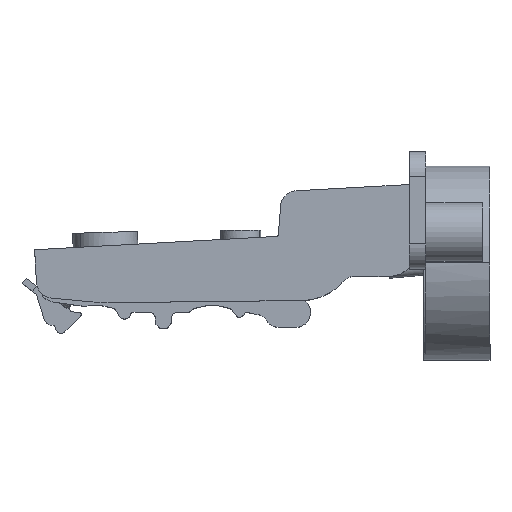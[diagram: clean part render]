
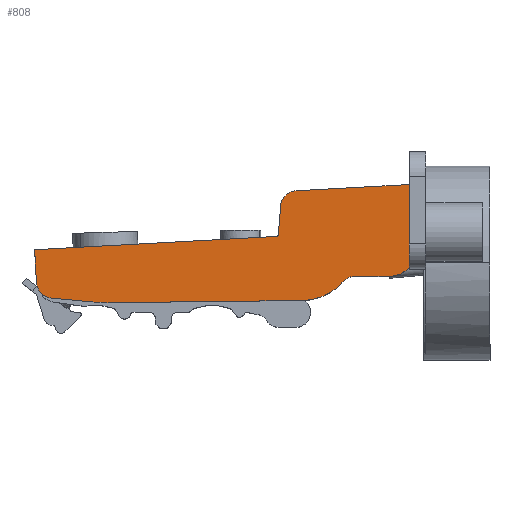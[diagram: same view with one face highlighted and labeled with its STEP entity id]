
A CAD part, top view. The second image highlights one B-rep face of the part: STEP entity #808.
In plain terms, the highlighted planar face has unit normal (0, 0, 1).
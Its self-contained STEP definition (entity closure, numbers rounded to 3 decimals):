
#79 = ORIENTED_EDGE ( 'NONE', *, *, #407, .T. ) ;
#109 = VERTEX_POINT ( 'NONE', #5250 ) ;
#197 = LINE ( 'NONE', #697, #4648 ) ;
#266 = AXIS2_PLACEMENT_3D ( 'NONE', #2943, #4321, #4776 ) ;
#311 = CARTESIAN_POINT ( 'NONE',  ( -4.882, 0.375, 8.5 ) ) ;
#407 = EDGE_CURVE ( 'NONE', #642, #2784, #5434, .T. ) ;
#416 = LINE ( 'NONE', #3244, #2180 ) ;
#435 = VECTOR ( 'NONE', #876, 1000. ) ;
#496 = CARTESIAN_POINT ( 'NONE',  ( -14.834, 14.798, 8.5 ) ) ;
#514 = CARTESIAN_POINT ( 'NONE',  ( -58.918, -1.461, 8.5 ) ) ;
#605 = CARTESIAN_POINT ( 'NONE',  ( -4.905, 2.375, 8.5 ) ) ;
#631 = VECTOR ( 'NONE', #1124, 1000. ) ;
#642 = VERTEX_POINT ( 'NONE', #3861 ) ;
#697 = CARTESIAN_POINT ( 'NONE',  ( -0.519, 18.589, 8.5 ) ) ;
#783 = CARTESIAN_POINT ( 'NONE',  ( -4.905, 2.375, 8.5 ) ) ;
#786 = CARTESIAN_POINT ( 'NONE',  ( -58.918, -1.461, 8.5 ) ) ;
#793 = LINE ( 'NONE', #5702, #631 ) ;
#808 = ADVANCED_FACE ( 'NONE', ( #3287 ), #5550, .T. ) ;
#845 = DIRECTION ( 'NONE',  ( 1., 0., 0. ) ) ;
#865 = CARTESIAN_POINT ( 'NONE',  ( -22.489, 9.378, 8.5 ) ) ;
#876 = DIRECTION ( 'NONE',  ( 1., 0.011, 0. ) ) ;
#910 = ORIENTED_EDGE ( 'NONE', *, *, #1434, .T. ) ;
#914 = DIRECTION ( 'NONE',  ( 1., 0., 0. ) ) ;
#990 = VERTEX_POINT ( 'NONE', #605 ) ;
#1060 = ORIENTED_EDGE ( 'NONE', *, *, #1093, .T. ) ;
#1093 = EDGE_CURVE ( 'NONE', #3996, #990, #1215, .T. ) ;
#1103 = AXIS2_PLACEMENT_3D ( 'NONE', #4534, #3098, #845 ) ;
#1123 = CIRCLE ( 'NONE', #266, 0.5 ) ;
#1124 = DIRECTION ( 'NONE',  ( 0.055, -0.998, 0. ) ) ;
#1164 = CARTESIAN_POINT ( 'NONE',  ( -18.204, 10.049, 8.5 ) ) ;
#1215 = CIRCLE ( 'NONE', #2557, 2. ) ;
#1241 = CARTESIAN_POINT ( 'NONE',  ( -14.067, 8.098, 8.5 ) ) ;
#1285 = CARTESIAN_POINT ( 'NONE',  ( -14.998, 17.794, 8.5 ) ) ;
#1321 = CARTESIAN_POINT ( 'NONE',  ( 1.847, 2.451, 8.5 ) ) ;
#1395 = ORIENTED_EDGE ( 'NONE', *, *, #1760, .T. ) ;
#1425 = AXIS2_PLACEMENT_3D ( 'NONE', #1241, #3075, #4101 ) ;
#1434 = EDGE_CURVE ( 'NONE', #109, #3048, #5315, .T. ) ;
#1587 = ORIENTED_EDGE ( 'NONE', *, *, #3230, .T. ) ;
#1707 = DIRECTION ( 'NONE',  ( -0.998, -0.055, 0. ) ) ;
#1760 = EDGE_CURVE ( 'NONE', #2239, #4083, #4387, .T. ) ;
#1774 = AXIS2_PLACEMENT_3D ( 'NONE', #2676, #3129, #4476 ) ;
#1781 = VERTEX_POINT ( 'NONE', #1321 ) ;
#1793 = CARTESIAN_POINT ( 'NONE',  ( -13.954, -1.901, 8.5 ) ) ;
#1825 = VECTOR ( 'NONE', #1707, 1000. ) ;
#1909 = EDGE_CURVE ( 'NONE', #4083, #2207, #1922, .T. ) ;
#1922 = LINE ( 'NONE', #514, #3054 ) ;
#1989 = AXIS2_PLACEMENT_3D ( 'NONE', #3664, #5020, #2632 ) ;
#2115 = VERTEX_POINT ( 'NONE', #5482 ) ;
#2121 = EDGE_CURVE ( 'NONE', #3048, #3996, #4876, .T. ) ;
#2180 = VECTOR ( 'NONE', #5926, 1000. ) ;
#2207 = VERTEX_POINT ( 'NONE', #2804 ) ;
#2229 = CARTESIAN_POINT ( 'NONE',  ( 1.797, 6.95, 8.5 ) ) ;
#2239 = VERTEX_POINT ( 'NONE', #5298 ) ;
#2250 = AXIS2_PLACEMENT_3D ( 'NONE', #2229, #3199, #2291 ) ;
#2291 = DIRECTION ( 'NONE',  ( 1., 0., 0. ) ) ;
#2351 = CIRCLE ( 'NONE', #2250, 4.5 ) ;
#2352 = ORIENTED_EDGE ( 'NONE', *, *, #2121, .T. ) ;
#2550 = ORIENTED_EDGE ( 'NONE', *, *, #1909, .T. ) ;
#2557 = AXIS2_PLACEMENT_3D ( 'NONE', #311, #4874, #5877 ) ;
#2632 = DIRECTION ( 'NONE',  ( 1., 0., 0. ) ) ;
#2676 = CARTESIAN_POINT ( 'NONE',  ( -14.834, 14.798, 8.5 ) ) ;
#2730 = CIRCLE ( 'NONE', #1103, 30. ) ;
#2749 = EDGE_CURVE ( 'NONE', #5514, #642, #1123, .T. ) ;
#2784 = VERTEX_POINT ( 'NONE', #4713 ) ;
#2804 = CARTESIAN_POINT ( 'NONE',  ( -51.481, -2.158, 8.5 ) ) ;
#2811 = VERTEX_POINT ( 'NONE', #1285 ) ;
#2943 = CARTESIAN_POINT ( 'NONE',  ( -18.703, 10.087, 8.5 ) ) ;
#2978 = CARTESIAN_POINT ( 'NONE',  ( 5.255, 14.798, 8.5 ) ) ;
#3004 = EDGE_CURVE ( 'NONE', #5171, #5514, #416, .T. ) ;
#3048 = VERTEX_POINT ( 'NONE', #1793 ) ;
#3054 = VECTOR ( 'NONE', #4688, 1000. ) ;
#3056 = ORIENTED_EDGE ( 'NONE', *, *, #5095, .F. ) ;
#3075 = DIRECTION ( 'NONE',  ( 0., 0., 1. ) ) ;
#3098 = DIRECTION ( 'NONE',  ( 0., 0., 1. ) ) ;
#3129 = DIRECTION ( 'NONE',  ( 0., 0., 1. ) ) ;
#3199 = DIRECTION ( 'NONE',  ( 0., 0., 1. ) ) ;
#3209 = DIRECTION ( 'NONE',  ( 1., 0.011, 0. ) ) ;
#3230 = EDGE_CURVE ( 'NONE', #1781, #2115, #2351, .T. ) ;
#3244 = CARTESIAN_POINT ( 'NONE',  ( -17.825, 15.026, 8.5 ) ) ;
#3287 = FACE_OUTER_BOUND ( 'NONE', #3863, .T. ) ;
#3423 = LINE ( 'NONE', #2978, #3792 ) ;
#3594 = ORIENTED_EDGE ( 'NONE', *, *, #3672, .T. ) ;
#3600 = EDGE_CURVE ( 'NONE', #2207, #109, #2730, .T. ) ;
#3601 = EDGE_CURVE ( 'NONE', #2811, #5171, #3788, .T. ) ;
#3616 = VERTEX_POINT ( 'NONE', #5843 ) ;
#3664 = CARTESIAN_POINT ( 'NONE',  ( -58.638, 1.526, 8.5 ) ) ;
#3672 = EDGE_CURVE ( 'NONE', #990, #1781, #4998, .T. ) ;
#3679 = DIRECTION ( 'NONE',  ( 0., 0., 1. ) ) ;
#3788 = CIRCLE ( 'NONE', #1774, 3. ) ;
#3792 = VECTOR ( 'NONE', #5296, 1000. ) ;
#3853 = DIRECTION ( 'NONE',  ( -0.998, -0.055, 0. ) ) ;
#3861 = CARTESIAN_POINT ( 'NONE',  ( -18.675, 9.588, 8.5 ) ) ;
#3863 = EDGE_LOOP ( 'NONE', ( #3056, #5103, #5826, #4583, #4458, #79, #5891, #1395, #2550, #5690, #910, #2352, #1060, #3594, #1587 ) ) ;
#3996 = VERTEX_POINT ( 'NONE', #4419 ) ;
#4083 = VERTEX_POINT ( 'NONE', #786 ) ;
#4101 = DIRECTION ( 'NONE',  ( 1., 0., 0. ) ) ;
#4321 = DIRECTION ( 'NONE',  ( 0., 0., -1. ) ) ;
#4387 = CIRCLE ( 'NONE', #1989, 3. ) ;
#4419 = CARTESIAN_POINT ( 'NONE',  ( -6.413, 1.662, 8.5 ) ) ;
#4458 = ORIENTED_EDGE ( 'NONE', *, *, #2749, .T. ) ;
#4476 = DIRECTION ( 'NONE',  ( 1., 0., 0. ) ) ;
#4501 = CARTESIAN_POINT ( 'NONE',  ( -48.344, -2.287, 8.5 ) ) ;
#4534 = CARTESIAN_POINT ( 'NONE',  ( -48.681, 27.711, 8.5 ) ) ;
#4580 = VECTOR ( 'NONE', #3209, 1000. ) ;
#4583 = ORIENTED_EDGE ( 'NONE', *, *, #3004, .T. ) ;
#4644 = EDGE_CURVE ( 'NONE', #3616, #2811, #197, .T. ) ;
#4648 = VECTOR ( 'NONE', #3853, 1000. ) ;
#4688 = DIRECTION ( 'NONE',  ( 0.996, -0.093, 0. ) ) ;
#4712 = AXIS2_PLACEMENT_3D ( 'NONE', #496, #3679, #914 ) ;
#4713 = CARTESIAN_POINT ( 'NONE',  ( -61.948, 7.211, 8.5 ) ) ;
#4776 = DIRECTION ( 'NONE',  ( 1., 0., 0. ) ) ;
#4874 = DIRECTION ( 'NONE',  ( 0., 0., -1. ) ) ;
#4876 = CIRCLE ( 'NONE', #1425, 10. ) ;
#4998 = LINE ( 'NONE', #783, #435 ) ;
#5020 = DIRECTION ( 'NONE',  ( 0., 0., 1. ) ) ;
#5044 = CARTESIAN_POINT ( 'NONE',  ( -17.825, 15.026, 8.5 ) ) ;
#5095 = EDGE_CURVE ( 'NONE', #3616, #2115, #3423, .T. ) ;
#5103 = ORIENTED_EDGE ( 'NONE', *, *, #4644, .T. ) ;
#5171 = VERTEX_POINT ( 'NONE', #5044 ) ;
#5250 = CARTESIAN_POINT ( 'NONE',  ( -48.344, -2.287, 8.5 ) ) ;
#5296 = DIRECTION ( 'NONE',  ( 0., -1., 0. ) ) ;
#5298 = CARTESIAN_POINT ( 'NONE',  ( -61.617, 1.172, 8.5 ) ) ;
#5315 = LINE ( 'NONE', #4501, #4580 ) ;
#5434 = LINE ( 'NONE', #865, #1825 ) ;
#5437 = EDGE_CURVE ( 'NONE', #2784, #2239, #793, .T. ) ;
#5482 = CARTESIAN_POINT ( 'NONE',  ( 5.255, 4.072, 8.5 ) ) ;
#5514 = VERTEX_POINT ( 'NONE', #1164 ) ;
#5550 = PLANE ( 'NONE',  #4712 ) ;
#5690 = ORIENTED_EDGE ( 'NONE', *, *, #3600, .T. ) ;
#5702 = CARTESIAN_POINT ( 'NONE',  ( -61.899, 6.312, 8.5 ) ) ;
#5826 = ORIENTED_EDGE ( 'NONE', *, *, #3601, .T. ) ;
#5843 = CARTESIAN_POINT ( 'NONE',  ( 5.255, 18.906, 8.5 ) ) ;
#5877 = DIRECTION ( 'NONE',  ( 1., 0., 0. ) ) ;
#5891 = ORIENTED_EDGE ( 'NONE', *, *, #5437, .T. ) ;
#5926 = DIRECTION ( 'NONE',  ( -0.076, -0.997, 0. ) ) ;
